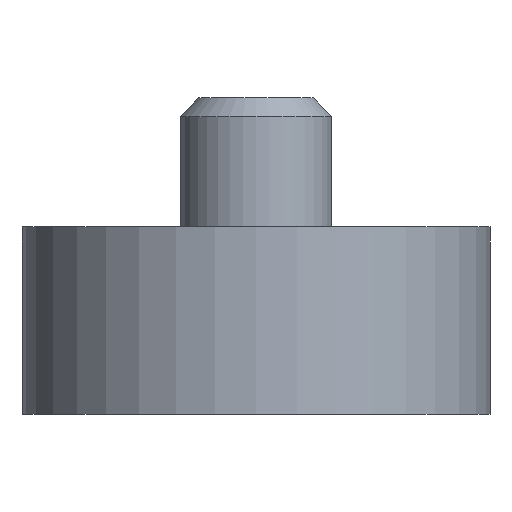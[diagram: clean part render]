
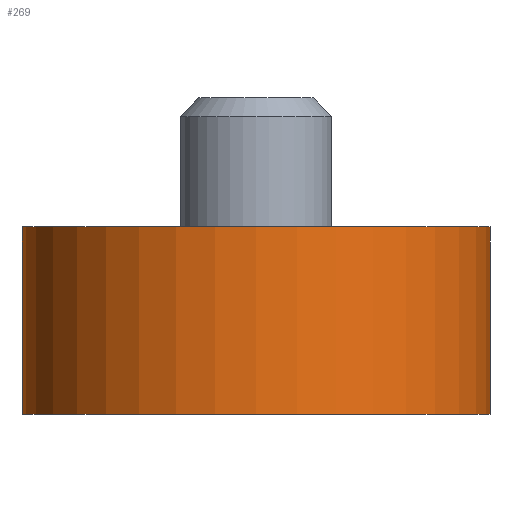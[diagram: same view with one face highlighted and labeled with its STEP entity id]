
A CAD part, front view. The second image highlights one B-rep face of the part: STEP entity #269.
In plain terms, the highlighted cylindrical face has radius 12.5 mm (diameter 25 mm), a partial arc.
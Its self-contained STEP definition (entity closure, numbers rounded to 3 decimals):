
#23=LINE('',#439,#31);
#24=LINE('',#443,#32);
#31=VECTOR('',#348,1000.);
#32=VECTOR('',#351,1000.);
#39=ORIENTED_EDGE('',*,*,#99,.F.);
#40=ORIENTED_EDGE('',*,*,#100,.F.);
#41=ORIENTED_EDGE('',*,*,#101,.T.);
#42=ORIENTED_EDGE('',*,*,#102,.T.);
#99=EDGE_CURVE('',#129,#130,#155,.T.);
#100=EDGE_CURVE('',#131,#129,#23,.T.);
#101=EDGE_CURVE('',#131,#132,#156,.T.);
#102=EDGE_CURVE('',#132,#130,#24,.T.);
#129=VERTEX_POINT('',#437);
#130=VERTEX_POINT('',#438);
#131=VERTEX_POINT('',#440);
#132=VERTEX_POINT('',#442);
#155=CIRCLE('',#302,12.5);
#156=CIRCLE('',#303,12.5);
#177=EDGE_LOOP('',(#39,#40,#41,#42));
#219=FACE_BOUND('',#177,.T.);
#261=CYLINDRICAL_SURFACE('',#301,12.5);
#269=ADVANCED_FACE('',(#219),#261,.T.);
#301=AXIS2_PLACEMENT_3D('',#435,#344,#345);
#302=AXIS2_PLACEMENT_3D('',#436,#346,#347);
#303=AXIS2_PLACEMENT_3D('',#441,#349,#350);
#344=DIRECTION('',(0.,0.,1.));
#345=DIRECTION('',(1.,0.,0.));
#346=DIRECTION('',(0.,0.,1.));
#347=DIRECTION('',(1.,0.,0.));
#348=DIRECTION('',(0.,0.,1.));
#349=DIRECTION('',(0.,0.,1.));
#350=DIRECTION('',(1.,0.,0.));
#351=DIRECTION('',(0.,0.,1.));
#435=CARTESIAN_POINT('',(-56.25,0.,44.25));
#436=CARTESIAN_POINT('',(-56.25,0.,54.25));
#437=CARTESIAN_POINT('',(-68.75,0.,54.25));
#438=CARTESIAN_POINT('',(-43.75,0.,54.25));
#439=CARTESIAN_POINT('',(-68.75,0.,44.25));
#440=CARTESIAN_POINT('',(-68.75,0.,44.25));
#441=CARTESIAN_POINT('',(-56.25,0.,44.25));
#442=CARTESIAN_POINT('',(-43.75,0.,44.25));
#443=CARTESIAN_POINT('',(-43.75,0.,44.25));
